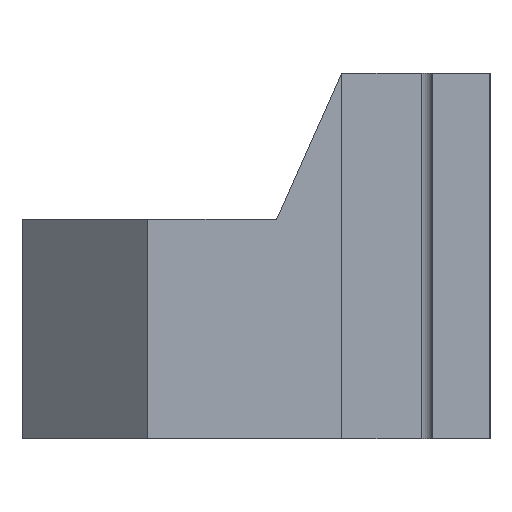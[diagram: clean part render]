
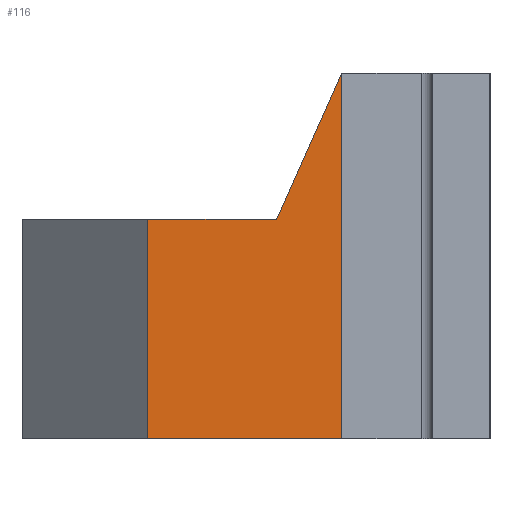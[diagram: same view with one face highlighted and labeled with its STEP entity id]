
A CAD part, left-side view. The second image highlights one B-rep face of the part: STEP entity #116.
In plain terms, the highlighted planar face has unit normal (-1, 0, 0).
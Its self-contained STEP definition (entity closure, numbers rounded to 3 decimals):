
#14 = ORIENTED_EDGE ( 'NONE', *, *, #460, .F. ) ;
#97 = ORIENTED_EDGE ( 'NONE', *, *, #308, .T. ) ;
#116 = ADVANCED_FACE ( 'NONE', ( #1304 ), #1305, .F. ) ;
#150 = VERTEX_POINT ( 'NONE', #1429 ) ;
#151 = EDGE_CURVE ( 'NONE', #330, #152, #1435, .T. ) ;
#152 = VERTEX_POINT ( 'NONE', #1439 ) ;
#160 = ORIENTED_EDGE ( 'NONE', *, *, #151, .T. ) ;
#162 = VERTEX_POINT ( 'NONE', #1460 ) ;
#308 = EDGE_CURVE ( 'NONE', #152, #1276, #875, .T. ) ;
#330 = VERTEX_POINT ( 'NONE', #956 ) ;
#460 = EDGE_CURVE ( 'NONE', #330, #162, #1450, .T. ) ;
#579 = EDGE_LOOP ( 'NONE', ( #160, #97, #1681, #1676, #14 ) ) ;
#875 = LINE ( 'NONE', #878, #879 ) ;
#878 = CARTESIAN_POINT ( 'NONE',  ( -19., 13., 3.2 ) ) ;
#879 = VECTOR ( 'NONE', #880, 1000. ) ;
#880 = DIRECTION ( 'NONE',  ( 0., 1., 0. ) ) ;
#909 = CARTESIAN_POINT ( 'NONE',  ( -19., 30., 3.2 ) ) ;
#956 = CARTESIAN_POINT ( 'NONE',  ( -19., 13., 16. ) ) ;
#1208 = LINE ( 'NONE', #1209, #1210 ) ;
#1209 = CARTESIAN_POINT ( 'NONE',  ( -19., 13., -16. ) ) ;
#1210 = VECTOR ( 'NONE', #1211, 1000. ) ;
#1211 = DIRECTION ( 'NONE',  ( 0., -1., 0. ) ) ;
#1221 = LINE ( 'NONE', #1222, #1223 ) ;
#1222 = CARTESIAN_POINT ( 'NONE',  ( -19., 30., 16. ) ) ;
#1223 = VECTOR ( 'NONE', #1227, 1000. ) ;
#1227 = DIRECTION ( 'NONE',  ( 0., 0., -1. ) ) ;
#1276 = VERTEX_POINT ( 'NONE', #909 ) ;
#1304 = FACE_OUTER_BOUND ( 'NONE', #579, .T. ) ;
#1305 = PLANE ( 'NONE',  #1306 ) ;
#1306 = AXIS2_PLACEMENT_3D ( 'NONE', #1307, #1308, #1309 ) ;
#1307 = CARTESIAN_POINT ( 'NONE',  ( -19., 13., 16. ) ) ;
#1308 = DIRECTION ( 'NONE',  ( 1., 0., 0. ) ) ;
#1309 = DIRECTION ( 'NONE',  ( 0., 0., -1. ) ) ;
#1429 = CARTESIAN_POINT ( 'NONE',  ( -19., 30., -16. ) ) ;
#1435 = LINE ( 'NONE', #1436, #1437 ) ;
#1436 = CARTESIAN_POINT ( 'NONE',  ( -19., 13., 16. ) ) ;
#1437 = VECTOR ( 'NONE', #1438, 1000. ) ;
#1438 = DIRECTION ( 'NONE',  ( 0., 0.407, -0.914 ) ) ;
#1439 = CARTESIAN_POINT ( 'NONE',  ( -19., 18.7, 3.2 ) ) ;
#1450 = LINE ( 'NONE', #1451, #1452 ) ;
#1451 = CARTESIAN_POINT ( 'NONE',  ( -19., 13., 16. ) ) ;
#1452 = VECTOR ( 'NONE', #1453, 1000. ) ;
#1453 = DIRECTION ( 'NONE',  ( 0., 0., -1. ) ) ;
#1460 = CARTESIAN_POINT ( 'NONE',  ( -19., 13., -16. ) ) ;
#1676 = ORIENTED_EDGE ( 'NONE', *, *, #1677, .T. ) ;
#1677 = EDGE_CURVE ( 'NONE', #150, #162, #1208, .T. ) ;
#1679 = EDGE_CURVE ( 'NONE', #1276, #150, #1221, .T. ) ;
#1681 = ORIENTED_EDGE ( 'NONE', *, *, #1679, .T. ) ;
